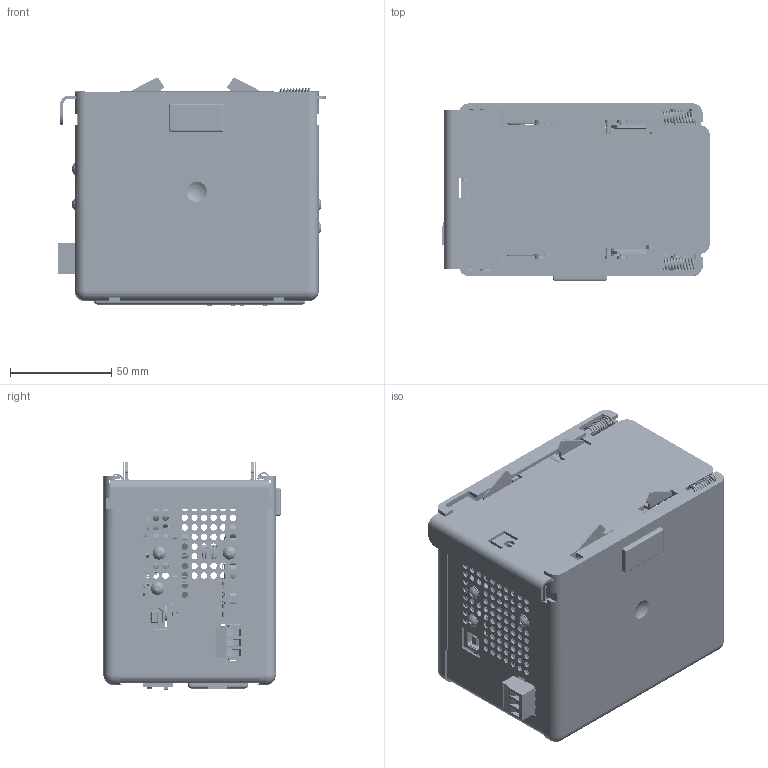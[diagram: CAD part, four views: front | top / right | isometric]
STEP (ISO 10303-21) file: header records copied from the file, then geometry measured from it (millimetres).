
FILE_DESCRIPTION( ( 'Unknown' ), '1' );
FILE_NAME( 'W:/Teams/Mech/SE data/Product_Lines/Mod Controller/CSMSTRxx_DSP/VideoStation/CSMSTRZR.stp', 'Unknown', ( 'Unknown' ), ( 'Unknown' ), 'PSStep 14.0', 'Unknown', ' ' );
FILE_SCHEMA( ( 'AUTOMOTIVE_DESIGN { 1 0 10303 214 1 1 1 1 }' ) );
Products named in the file (767): PB04519_-ZR; HD18B0KH; CNBFS180; CNBFS641; CNMJ8803; M4519X-board; M4519X-parts; PB04619_riser; CNBHS400; PB04618_; CNBMS640; HWCIT10R; CNHFR040; CNMJ8804; CNMJ6602; CNMJ6601; CNHFR041; CNEP0503; M4618X-parts; M4618X-board; PB04619A-PSU; M4619A-parts; M4619A-PSU-board; INC35000; Assem1; M4476; CA299802; CA299801; HWSMCG10; HWSMCG10-oa0; HWSMCG10-oa1; HWSMCG10-oa2; HWSMCG10-oa3; HWSMCG10-oa4; HWSMCG10-oa5; CNTP0300; CV359100; BR466800; HWPC1600; BR112995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
Assembly tree (783 placements, depth 3):
  Assem1
    M4476
    CA299802
    CA299802
    CA299801
    CA299801
    HWSMCG10  x2
    HWSMCG10-oa0
    HWSMCG10-oa1
    HWSMCG10-oa2
    HWSMCG10-oa3
    HWSMCG10-oa4
    HWSMCG10-oa5
    CNTP0300
    CV359100
    BR466800
    HWPC1600  x2
    BR112995
    BR112995-oa6
    HWSMAP12  x2
    HWWLI003  x6
    HWSMEK10  x6
    CV466901
    PB04618_
      CNBMS640  x2
      HWCIT10R  x2
      CNHFR040
      CNMJ8804
      CNMJ8804
      CNMJ8804
      CNMJ6602
      CNMJ6602
      CNMJ6602
      CNMJ6601
      CNHFR041
      CNEP0503
      M4618X-parts
      M4618X-parts
      M4618X-parts
      M4618X-parts
      M4618X-parts
      M4618X-parts
      M4618X-parts
      M4618X-parts
      M4618X-parts
      M4618X-parts
      M4618X-parts
      M4618X-parts
      M4618X-parts
      M4618X-parts
      M4618X-parts
      M4618X-parts
      M4618X-parts
      M4618X-parts
      M4618X-parts
      M4618X-parts
      M4618X-parts
      M4618X-parts
      M4618X-parts
      M4618X-parts
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Bounding box: 132.43 x 87.63 x 112.63 mm (x, y, z)
Volume: 226704.4 mm3; surface area: 307399.7 mm2
Topology: 780 solids, 781 shells, 41514 faces, 115231 edges, 74204 vertices
Faces by surface type: plane 33933, cylinder 6561, torus 470, cone 202, sphere 198, bspline 90, extrusion 60
Full cylindrical faces by diameter (mm): 0.25 x1, 0.3 x4, 0.33 x25, 0.4 x50, 0.434 x1, 0.5 x8, 0.533 x283, 0.559 x6, 0.6 x70, 0.61 x2, 0.635 x3, 0.64 x2, 0.711 x8, 0.762 x4, 0.889 x26, 0.909 x24, 0.93 x2, 1 x5, 1.001 x4, 1.016 x8, 1.067 x4, 1.092 x34, 1.1 x4, 1.151 x1, 1.168 x20, 1.191 x4, 1.2 x4, 1.219 x4, 1.245 x76, 1.27 x4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
Entity records: 1509460 total; most frequent: CARTESIAN_POINT 208394, ORIENTED_EDGE 190776, DIRECTION 179581, EDGE_CURVE 95388, VECTOR 81793, LINE 81733, VERTEX_POINT 62176, STYLED_ITEM 55129
